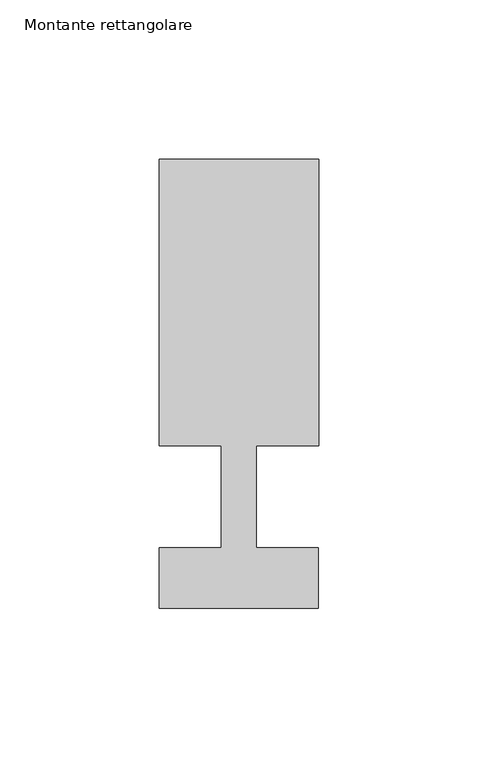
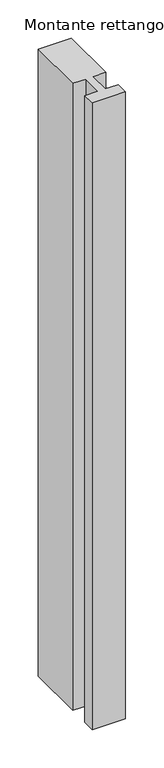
"""IFC4 building model written with IfcOpenShell, lengths in millimetres: member geometry, Montante rettangolare : Aluk_SL50_Traverso K742_vetro 32."""

from ifc_helpers import new_model, si_unit, frame, origin, place, context, project, spatial, polyline, outline, extrude, source, transform, mapped, element, save


def montante_rettangolare_e426598a(model_context):
    return source(origin(), model_context, "Body", "SweptSolid", [
        extrude(outline(polyline([(25.0, 106.0), (25.0, 16.0001243), (5.5, 16.0001243), (5.5, -15.9998757), (24.9874218, -15.9998757), (24.9874218, -35.0022918), (-25.026691, -35.0022918), (-25.026691, -15.9998757), (-5.5, -15.9998757), (-5.5, 16.0001243), (-25.0, 16.0001243), (-25.0, 106.0), (25.0, 106.0)])), frame((0.0, 0.0, -999.6428571), z_axis=(0.0, 0.0, 1.0), x_axis=(1.0, 0.0, 0.0)), (0.0, 0.0, 1.0), 999.6428571),
    ])


if __name__ == "__main__":
    model = new_model("IFC4")
    model_context = context("Model", 3, world=origin())
    ifc_project = project(units=[si_unit("LENGTHUNIT", "METRE", prefix="MILLI")], contexts=[model_context])
    site = spatial("IfcSite", under=ifc_project)
    building = spatial("IfcBuilding", under=site)
    placement = place(None, origin())
    montante_rettangolare_shape = montante_rettangolare_e426598a(model_context)
    element("IfcMember", 1, ObjectType="Montante rettangolare : Aluk_SL50_Traverso K742_vetro 32", at=placement, inside=building, context=model_context, shape_type="MappedRepresentation", body=[
        mapped(montante_rettangolare_shape, transform((0.0, 0.0, 0.0), x_axis=(1.0, 0.0, 0.0), y_axis=(0.0, 1.0, 0.0), z_axis=(0.0, 0.0, 1.0))),
    ])
    save(model, "model.ifc")
